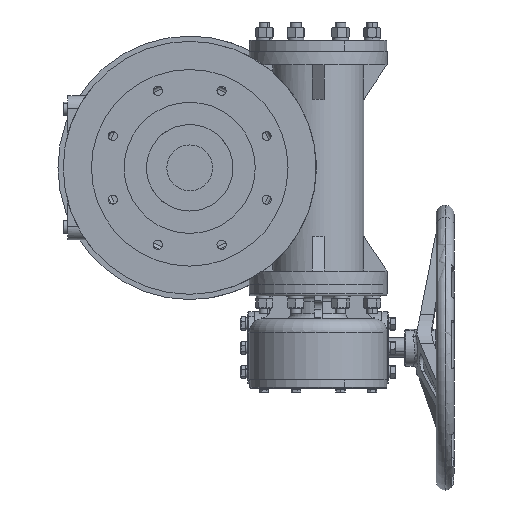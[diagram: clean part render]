
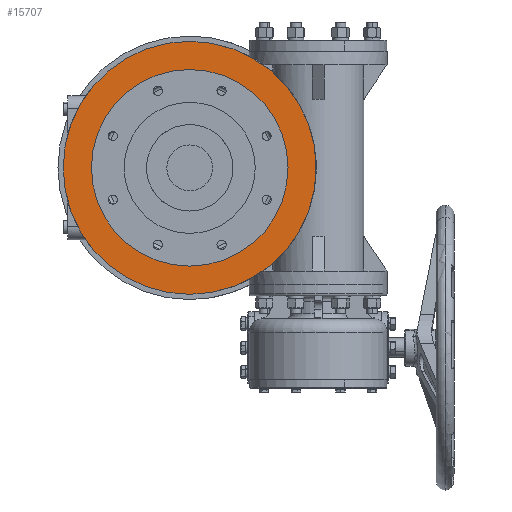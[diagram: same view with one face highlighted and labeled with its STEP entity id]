
A CAD part, front view. The second image highlights one B-rep face of the part: STEP entity #15707.
In plain terms, the highlighted planar face has unit normal (0, -1, 0).
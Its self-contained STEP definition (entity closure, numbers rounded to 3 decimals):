
#2012 = ORIENTED_EDGE ( 'NONE', *, *, #38611, .F. ) ;
#4735 = VERTEX_POINT ( 'NONE', #22293 ) ;
#6922 = CARTESIAN_POINT ( 'NONE',  ( 0., -70., -150. ) ) ;
#6975 = ORIENTED_EDGE ( 'NONE', *, *, #20821, .T. ) ;
#8320 = CARTESIAN_POINT ( 'NONE',  ( 0., -70., 0. ) ) ;
#8687 = AXIS2_PLACEMENT_3D ( 'NONE', #32190, #44640, #19929 ) ;
#11581 = DIRECTION ( 'NONE',  ( 0., 0., 1. ) ) ;
#15390 = EDGE_LOOP ( 'NONE', ( #2012, #50330 ) ) ;
#15707 = ADVANCED_FACE ( 'NONE', ( #35489, #47089 ), #32689, .F. ) ;
#16619 = CIRCLE ( 'NONE', #37994, 150. ) ;
#16643 = DIRECTION ( 'NONE',  ( 0., 1., 0. ) ) ;
#17054 = ORIENTED_EDGE ( 'NONE', *, *, #19045, .T. ) ;
#17885 = EDGE_CURVE ( 'NONE', #39673, #4735, #38609, .T. ) ;
#19045 = EDGE_CURVE ( 'NONE', #42427, #27345, #16619, .T. ) ;
#19929 = DIRECTION ( 'NONE',  ( 0., 0., 1. ) ) ;
#20615 = DIRECTION ( 'NONE',  ( 0., 1., 0. ) ) ;
#20821 = EDGE_CURVE ( 'NONE', #27345, #42427, #22992, .T. ) ;
#22293 = CARTESIAN_POINT ( 'NONE',  ( 0., -70., 193. ) ) ;
#22992 = CIRCLE ( 'NONE', #8687, 150. ) ;
#24243 = DIRECTION ( 'NONE',  ( 0., 0., 1. ) ) ;
#24414 = CARTESIAN_POINT ( 'NONE',  ( 0., -70., 0. ) ) ;
#24585 = DIRECTION ( 'NONE',  ( 0., 0., 1. ) ) ;
#24677 = AXIS2_PLACEMENT_3D ( 'NONE', #48235, #27500, #11581 ) ;
#24761 = CARTESIAN_POINT ( 'NONE',  ( 150., -70., 0. ) ) ;
#27345 = VERTEX_POINT ( 'NONE', #47310 ) ;
#27500 = DIRECTION ( 'NONE',  ( 0., 1., 0. ) ) ;
#32190 = CARTESIAN_POINT ( 'NONE',  ( 0., -70., 0. ) ) ;
#32689 = PLANE ( 'NONE',  #50750 ) ;
#33657 = CIRCLE ( 'NONE', #24677, 193. ) ;
#34600 = CARTESIAN_POINT ( 'NONE',  ( 0., -70., -193. ) ) ;
#34847 = AXIS2_PLACEMENT_3D ( 'NONE', #24414, #16643, #24243 ) ;
#35489 = FACE_OUTER_BOUND ( 'NONE', #15390, .T. ) ;
#37994 = AXIS2_PLACEMENT_3D ( 'NONE', #8320, #49620, #40797 ) ;
#38609 = CIRCLE ( 'NONE', #34847, 193. ) ;
#38611 = EDGE_CURVE ( 'NONE', #4735, #39673, #33657, .T. ) ;
#39673 = VERTEX_POINT ( 'NONE', #34600 ) ;
#40797 = DIRECTION ( 'NONE',  ( 0., 0., 1. ) ) ;
#42427 = VERTEX_POINT ( 'NONE', #6922 ) ;
#44640 = DIRECTION ( 'NONE',  ( 0., 1., 0. ) ) ;
#47089 = FACE_BOUND ( 'NONE', #47655, .T. ) ;
#47310 = CARTESIAN_POINT ( 'NONE',  ( 0., -70., 150. ) ) ;
#47655 = EDGE_LOOP ( 'NONE', ( #6975, #17054 ) ) ;
#48235 = CARTESIAN_POINT ( 'NONE',  ( 0., -70., 0. ) ) ;
#49620 = DIRECTION ( 'NONE',  ( 0., 1., 0. ) ) ;
#50330 = ORIENTED_EDGE ( 'NONE', *, *, #17885, .F. ) ;
#50750 = AXIS2_PLACEMENT_3D ( 'NONE', #24761, #20615, #24585 ) ;
